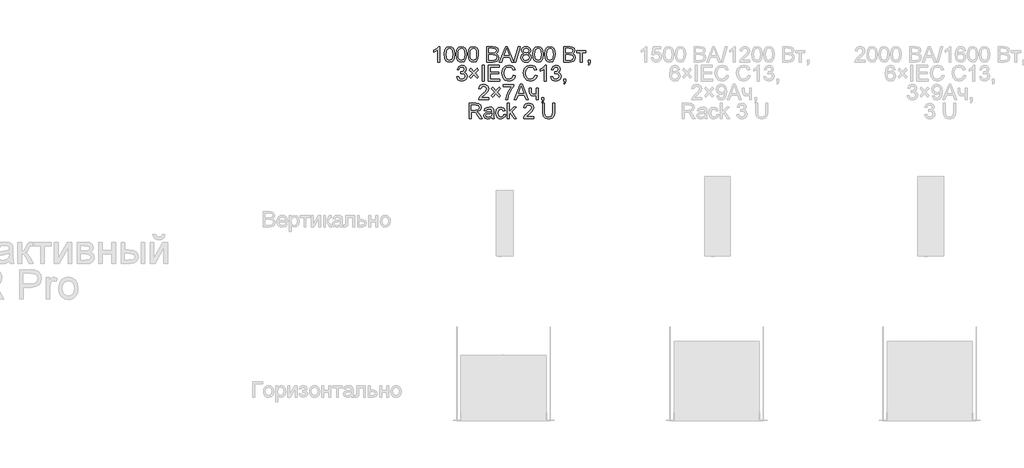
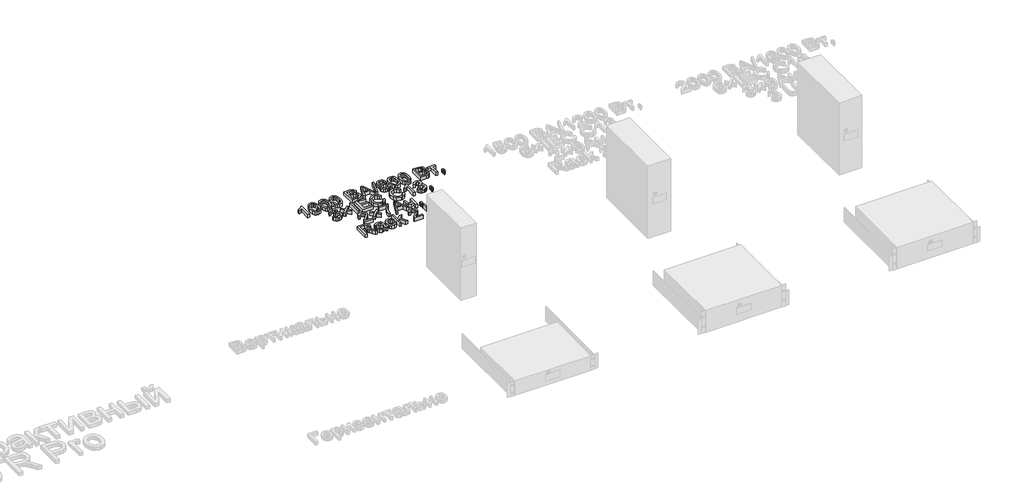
# One storey, part 71 of 74: 1 proxy.
"""IFC4 building model written with IfcOpenShell, lengths in millimetres."""

from ifc_helpers import new_model, si_unit, origin, origin_with_axes, place, context, project, spatial, polyline, outline, extrude, element, save

model = new_model("IFC4")

# Units and contexts
model_context = context("Model", 3, world=origin())
ifc_project = project(units=[si_unit("LENGTHUNIT", "METRE", prefix="MILLI")], contexts=[model_context])

# Site, building, storey
site = spatial("IfcSite", under=ifc_project)
building = spatial("IfcBuilding", under=site)
storey = spatial("IfcBuildingStorey", under=building, Name="Этаж 01", Elevation=0.0)

# Proxy
placement = place(None, origin())
element("IfcBuildingElementProxy", 1, Name="80 мм Arial", ObjectType="80 мм Arial", at=placement, inside=storey, context=model_context, shape_type="SweptSolid", body=[
    extrude(outline(polyline([(1017.7661692, 4962.3651415), (1007.7205382, 4962.3651415), (1007.7205382, 5024.9933724), (998.2046572, 5018.2145335), (987.6292761, 5013.142667), (987.6292761, 5022.6389276), (1002.3543661, 5032.0370863), (1011.2914461, 5042.7301896), (1017.7661692, 5042.7301896), (1017.7661692, 4962.3651415)])), origin_with_axes(), (0.0, 0.0, 1.0), 20.0),
    extrude(outline(polyline([(1041.6245428, 5001.9001933), (1044.577409, 5025.0228029), (1053.3477158, 5038.3548465), (1067.9943243, 5042.7301896), (1079.7273074, 5040.1403004), (1087.8305214, 5032.6747484), (1092.539411, 5020.7848024), (1094.3641057, 5001.9001933), (1091.4406701, 4978.8756855), (1082.6997939, 4965.5142114), (1067.9943243, 4961.1094377), (1057.5562858, 4963.022424), (1049.6296551, 4968.7613832), (1043.6258209, 4982.3533966), (1041.6245428, 5001.9001933)]), holes=[polyline([(1051.6701739, 5001.9198136), (1052.8473962, 4986.1180557), (1056.3790634, 4976.9725093), (1067.9943243, 4971.1550687), (1079.6095851, 4976.9921297), (1083.1412523, 4986.1425811), (1084.3184747, 5001.9198136), (1083.180493, 5017.3659524), (1079.7665481, 5026.5826226), (1074.5180983, 5031.1590746), (1067.876602, 5032.6845586), (1056.5360264, 5027.3085764), (1052.886637, 5017.5180102), (1051.6701739, 5001.9198136)])]), origin_with_axes(), (0.0, 0.0, 1.0), 20.0),
    extrude(outline(polyline([(1103.1540328, 5001.9001933), (1106.106899, 5025.0228029), (1114.8772057, 5038.3548465), (1129.5238142, 5042.7301896), (1141.2567973, 5040.1403004), (1149.3600114, 5032.6747484), (1154.0689009, 5020.7848024), (1155.8935956, 5001.9001933), (1152.97016, 4978.8756855), (1144.2292838, 4965.5142114), (1129.5238142, 4961.1094377), (1119.0857757, 4963.022424), (1111.159145, 4968.7613832), (1105.1553109, 4982.3533966), (1103.1540328, 5001.9001933)]), holes=[polyline([(1113.1996638, 5001.9198136), (1114.3768862, 4986.1180557), (1117.9085534, 4976.9725093), (1129.5238142, 4971.1550687), (1141.1390751, 4976.9921297), (1144.6707422, 4986.1425811), (1145.8479646, 5001.9198136), (1144.709983, 5017.3659524), (1141.2960381, 5026.5826226), (1136.0475883, 5031.1590746), (1129.406092, 5032.6845586), (1118.0655163, 5027.3085764), (1114.4161269, 5017.5180102), (1113.1996638, 5001.9198136)])]), origin_with_axes(), (0.0, 0.0, 1.0), 20.0),
    extrude(outline(polyline([(1164.6835228, 5001.9001933), (1167.6363889, 5025.0228029), (1176.4066957, 5038.3548465), (1191.0533042, 5042.7301896), (1202.7862873, 5040.1403004), (1210.8895014, 5032.6747484), (1215.5983909, 5020.7848024), (1217.4230856, 5001.9001933), (1214.49965, 4978.8756855), (1205.7587738, 4965.5142114), (1191.0533042, 4961.1094377), (1180.6152657, 4963.022424), (1172.688635, 4968.7613832), (1166.6848008, 4982.3533966), (1164.6835228, 5001.9001933)]), holes=[polyline([(1174.7291538, 5001.9198136), (1175.9063762, 4986.1180557), (1179.4380433, 4976.9725093), (1191.0533042, 4971.1550687), (1202.668565, 4976.9921297), (1206.2002322, 4986.1425811), (1207.3774546, 5001.9198136), (1206.2394729, 5017.3659524), (1202.825528, 5026.5826226), (1197.5770782, 5031.1590746), (1190.9355819, 5032.6845586), (1179.5950063, 5027.3085764), (1175.9456169, 5017.5180102), (1174.7291538, 5001.9198136)])]), origin_with_axes(), (0.0, 0.0, 1.0), 20.0),
    extrude(outline(polyline([(1261.3727213, 4962.3651415), (1261.3727213, 5042.7301896), (1292.0393644, 5042.7301896), (1307.05876, 5040.3659347), (1315.9271686, 5033.0965865), (1319.1350996, 5022.815511), (1316.4372983, 5013.4271625), (1308.2850333, 5006.3147772), (1318.1835115, 4998.8197947), (1321.6465074, 4986.3216171), (1319.2822524, 4975.5206017), (1313.4255711, 4967.8294154), (1304.6846949, 4963.7483778), (1291.8039199, 4962.3651415), (1261.3727213, 4962.3651415)]), holes=[polyline([(1271.4183523, 5010.0818888), (1289.7634011, 5010.0818888), (1300.4761248, 5010.9451853), (1306.9214174, 5014.663246), (1309.0894686, 5021.2066404), (1307.0685702, 5027.759845), (1301.2805601, 5031.6348687), (1288.3703546, 5032.6845586), (1271.4183523, 5032.6845586), (1271.4183523, 5010.0818888)]), polyline([(1271.4183523, 4972.4107725), (1292.019744, 4972.4107725), (1299.4754858, 4972.80318), (1305.7834357, 4974.9908516), (1309.9625752, 4979.4544865), (1311.6008764, 4986.2235152), (1309.6780798, 4994.0324237), (1303.4486114, 4998.6922623), (1291.0387254, 5000.0362578), (1271.4183523, 5000.0362578), (1271.4183523, 4972.4107725)])]), origin_with_axes(), (0.0, 0.0, 1.0), 20.0),
    extrude(outline(polyline([(1326.1003321, 4962.3651415), (1358.179642, 5042.7301896), (1366.7341247, 5042.7301896), (1398.8134347, 4962.3651415), (1388.1988129, 4962.3651415), (1378.9968579, 4987.4792191), (1345.8972885, 4987.4792191), (1336.7149539, 4962.3651415), (1326.1003321, 4962.3651415)]), holes=[polyline([(1349.5859186, 4997.5248501), (1375.3278481, 4997.5248501), (1368.0879305, 5017.2825658), (1362.4568834, 5032.6845586), (1357.4536882, 5019.0091586), (1349.5859186, 4997.5248501)])]), origin_with_axes(), (0.0, 0.0, 1.0), 20.0),
    extrude(outline(polyline([(1400.7558516, 4962.3651415), (1423.3585214, 5042.7301896), (1432.4231338, 5042.7301896), (1409.820464, 4962.3651415), (1400.7558516, 4962.3651415)])), origin_with_axes(), (0.0, 0.0, 1.0), 20.0),
    extrude(outline(polyline([(1451.8080624, 5006.6287032), (1442.6551583, 5012.8679818), (1439.6826718, 5022.5800665), (1441.3013526, 5030.4331208), (1446.1573949, 5036.9225592), (1453.7063335, 5041.278282), (1463.4037029, 5042.7301896), (1473.1599334, 5041.2439464), (1480.8069738, 5036.7852166), (1485.7513078, 5030.1927713), (1487.3994191, 5022.3053813), (1484.4661734, 5012.8385513), (1475.5683342, 5006.6287032), (1486.2516273, 4998.7511234), (1489.9108269, 4985.7526262), (1488.0959424, 4976.1484536), (1482.6512888, 4968.2120127), (1474.243959, 4962.8850814), (1463.5410455, 4961.1094377), (1452.838132, 4962.8924391), (1444.4308021, 4968.2414433), (1438.9861486, 4976.2539131), (1437.1712641, 4986.0273115), (1440.9776164, 4999.3299244), (1451.8080624, 5006.6287032)]), holes=[polyline([(1449.7283028, 5022.2857609), (1453.2894005, 5014.3983709), (1463.6587677, 5011.3375927), (1473.822121, 5014.3787506), (1477.3537881, 5021.8344923), (1473.7043987, 5029.5551091), (1463.5410455, 5032.6845586), (1453.3482617, 5029.6237804), (1449.7283028, 5022.2857609)]), polyline([(1447.2168951, 4986.3804782), (1448.894437, 4978.8168244), (1454.8295998, 4973.1563467), (1463.619527, 4971.1550687), (1475.5879545, 4975.3636387), (1479.8651959, 4986.0665522), (1475.4506119, 4996.9754796), (1463.2859806, 5001.2919617), (1451.4647058, 4997.0343408), (1447.2168951, 4986.3804782)])]), origin_with_axes(), (0.0, 0.0, 1.0), 20.0),
    extrude(outline(polyline([(1498.700754, 5001.9001933), (1501.6536202, 5025.0228029), (1510.4239269, 5038.3548465), (1525.0705354, 5042.7301896), (1536.8035185, 5040.1403004), (1544.9067326, 5032.6747484), (1549.6156222, 5020.7848024), (1551.4403168, 5001.9001933), (1548.5168813, 4978.8756855), (1539.7760051, 4965.5142114), (1525.0705354, 4961.1094377), (1514.632497, 4963.022424), (1506.7058662, 4968.7613832), (1500.7020321, 4982.3533966), (1498.700754, 5001.9001933)]), holes=[polyline([(1508.746385, 5001.9198136), (1509.9236074, 4986.1180557), (1513.4552746, 4976.9725093), (1525.0705354, 4971.1550687), (1536.6857963, 4976.9921297), (1540.2174634, 4986.1425811), (1541.3946858, 5001.9198136), (1540.2567042, 5017.3659524), (1536.8427593, 5026.5826226), (1531.5943095, 5031.1590746), (1524.9528132, 5032.6845586), (1513.6122376, 5027.3085764), (1509.9628482, 5017.5180102), (1508.746385, 5001.9198136)])]), origin_with_axes(), (0.0, 0.0, 1.0), 20.0),
    extrude(outline(polyline([(1560.230244, 5001.9001933), (1563.1831101, 5025.0228029), (1571.9534169, 5038.3548465), (1586.6000254, 5042.7301896), (1598.3330085, 5040.1403004), (1606.4362226, 5032.6747484), (1611.1451121, 5020.7848024), (1612.9698068, 5001.9001933), (1610.0463712, 4978.8756855), (1601.305495, 4965.5142114), (1586.6000254, 4961.1094377), (1576.1619869, 4963.022424), (1568.2353562, 4968.7613832), (1562.231522, 4982.3533966), (1560.230244, 5001.9001933)]), holes=[polyline([(1570.275875, 5001.9198136), (1571.4530974, 4986.1180557), (1574.9847645, 4976.9725093), (1586.6000254, 4971.1550687), (1598.2152863, 4976.9921297), (1601.7469534, 4986.1425811), (1602.9241758, 5001.9198136), (1601.7861942, 5017.3659524), (1598.3722492, 5026.5826226), (1593.1237994, 5031.1590746), (1586.4823032, 5032.6845586), (1575.1417275, 5027.3085764), (1571.4923381, 5017.5180102), (1570.275875, 5001.9198136)])]), origin_with_axes(), (0.0, 0.0, 1.0), 20.0),
    extrude(outline(polyline([(1656.9194425, 4962.3651415), (1656.9194425, 5042.7301896), (1687.5860856, 5042.7301896), (1702.6054812, 5040.3659347), (1711.4738898, 5033.0965865), (1714.6818208, 5022.815511), (1711.9840195, 5013.4271625), (1703.8317545, 5006.3147772), (1713.7302327, 4998.8197947), (1717.1932286, 4986.3216171), (1714.8289736, 4975.5206017), (1708.9722923, 4967.8294154), (1700.2314161, 4963.7483778), (1687.3506411, 4962.3651415), (1656.9194425, 4962.3651415)]), holes=[polyline([(1666.9650735, 4972.4107725), (1687.5664652, 4972.4107725), (1695.022207, 4972.80318), (1701.330157, 4974.9908516), (1705.5092964, 4979.4544865), (1707.1475976, 4986.2235152), (1705.224801, 4994.0324237), (1698.9953326, 4998.6922623), (1686.5854466, 5000.0362578), (1666.9650735, 5000.0362578), (1666.9650735, 4972.4107725)]), polyline([(1666.9650735, 5010.0818888), (1685.3101223, 5010.0818888), (1696.022846, 5010.9451853), (1702.4681386, 5014.663246), (1704.6361898, 5021.2066404), (1702.6152914, 5027.759845), (1696.8272813, 5031.6348687), (1683.9170759, 5032.6845586), (1666.9650735, 5032.6845586), (1666.9650735, 5010.0818888)])]), origin_with_axes(), (0.0, 0.0, 1.0), 20.0),
    extrude(outline(polyline([(1724.7274519, 5021.3832237), (1772.4441992, 5021.3832237), (1772.4441992, 5011.3375927), (1753.608641, 5011.3375927), (1753.608641, 4962.3651415), (1743.56301, 4962.3651415), (1743.56301, 5011.3375927), (1724.7274519, 5011.3375927), (1724.7274519, 5021.3832237)])), origin_with_axes(), (0.0, 0.0, 1.0), 20.0),
    extrude(outline(polyline([(1783.7455341, 4962.3651415), (1783.7455341, 4972.4107725), (1793.7911651, 4972.4107725), (1793.7911651, 4962.3651415), (1791.9860908, 4952.0938762), (1786.2569418, 4946.0409911), (1783.7455341, 4949.8081028), (1787.4341642, 4954.1442052), (1788.7487292, 4962.3651415), (1783.7455341, 4962.3651415)])), origin_with_axes(), (0.0, 0.0, 1.0), 20.0),
    extrude(outline(polyline([(1105.6654406, 4886.1322532), (1115.7110716, 4887.387957), (1121.253827, 4876.8125759), (1131.6231941, 4873.5752144), (1143.8270662, 4878.0290391), (1148.3593724, 4889.0556887), (1143.8663069, 4899.4446763), (1132.4472498, 4903.5551445), (1125.4035359, 4902.4564036), (1126.5218971, 4912.5020346), (1128.1307677, 4912.3843123), (1139.5302045, 4915.2685072), (1144.5922607, 4924.1369158), (1140.923251, 4931.9948752), (1131.4662312, 4935.1047044), (1121.8914891, 4931.9654447), (1116.9667754, 4922.5476656), (1106.9211444, 4923.8033695), (1115.1420808, 4939.558529), (1131.1130644, 4945.1503354), (1143.2286448, 4942.393673), (1151.704646, 4934.8594497), (1154.6378918, 4924.725527), (1151.8517988, 4915.4647109), (1143.6112421, 4908.8134044), (1154.5594103, 4901.9462739), (1158.4050034, 4888.8791054), (1156.4822068, 4879.0885392), (1150.7138171, 4870.9068437), (1142.0072766, 4865.3738984), (1131.2700274, 4863.5295834), (1121.5579427, 4865.1041183), (1113.6509324, 4869.8277231), (1108.1523228, 4877.0529255), (1105.6654406, 4886.1322532)])), origin_with_axes(), (0.0, 0.0, 1.0), 20.0),
    extrude(outline(polyline([(1171.0405236, 4887.387957), (1186.991887, 4904.3399594), (1171.0405236, 4921.2919617), (1177.2405615, 4930.0818888), (1194.2710454, 4912.0703864), (1211.2230477, 4930.0818888), (1217.4230856, 4921.2919617), (1201.4717223, 4904.3399594), (1217.4230856, 4887.387957), (1211.2230477, 4878.5980299), (1194.2710454, 4896.6095324), (1177.2405615, 4878.5980299), (1171.0405236, 4887.387957)])), origin_with_axes(), (0.0, 0.0, 1.0), 20.0),
    extrude(outline(polyline([(1237.5143476, 4864.7852873), (1237.5143476, 4945.1503354), (1247.5599786, 4945.1503354), (1247.5599786, 4864.7852873), (1237.5143476, 4864.7852873)])), origin_with_axes(), (0.0, 0.0, 1.0), 20.0),
    extrude(outline(polyline([(1267.6512407, 4864.7852873), (1267.6512407, 4945.1503354), (1325.413619, 4945.1503354), (1325.413619, 4935.1047044), (1277.6968717, 4935.1047044), (1277.6968717, 4911.2463307), (1322.9022113, 4911.2463307), (1322.9022113, 4901.2006997), (1277.6968717, 4901.2006997), (1277.6968717, 4874.8309183), (1326.6693229, 4874.8309183), (1326.6693229, 4864.7852873), (1267.6512407, 4864.7852873)])), origin_with_axes(), (0.0, 0.0, 1.0), 20.0),
    extrude(outline(polyline([(1398.2444439, 4893.3525505), (1408.2900749, 4890.7626612), (1403.6547617, 4879.0566561), (1396.3805084, 4870.504626), (1386.8253867, 4865.273344), (1375.3474685, 4863.5295834), (1354.441961, 4868.8074637), (1342.1792278, 4884.0917344), (1337.9706578, 4905.5760429), (1342.7285982, 4927.4135181), (1356.2568455, 4941.5696173), (1375.5632926, 4946.4060392), (1386.5776795, 4944.8413145), (1395.6839852, 4940.1471402), (1402.5977141, 4932.612917), (1407.034371, 4922.5280452), (1396.98874, 4920.1343597), (1388.7481833, 4932.4853846), (1375.1708851, 4936.3604082), (1359.4549663, 4932.0635465), (1350.5767475, 4920.5267672), (1348.0162888, 4905.5956633), (1351.0476364, 4888.2904942), (1360.4850359, 4877.234414), (1374.3468295, 4873.5752144), (1389.7193918, 4878.5587892), (1398.2444439, 4893.3525505)])), origin_with_axes(), (0.0, 0.0, 1.0), 20.0),
    extrude(outline(polyline([(1510.0020889, 4893.3525505), (1520.0477199, 4890.7626612), (1515.4124068, 4879.0566561), (1508.1381535, 4870.504626), (1498.5830318, 4865.273344), (1487.1051135, 4863.5295834), (1466.199606, 4868.8074637), (1453.9368728, 4884.0917344), (1449.7283028, 4905.5760429), (1454.4862433, 4927.4135181), (1468.0144905, 4941.5696173), (1487.3209376, 4946.4060392), (1498.3353246, 4944.8413145), (1507.4416302, 4940.1471402), (1514.3553592, 4932.612917), (1518.792016, 4922.5280452), (1508.746385, 4920.1343597), (1500.5058283, 4932.4853846), (1486.9285302, 4936.3604082), (1471.2126113, 4932.0635465), (1462.3343925, 4920.5267672), (1459.7739338, 4905.5956633), (1462.8052815, 4888.2904942), (1472.2426809, 4877.234414), (1486.1044745, 4873.5752144), (1501.4770368, 4878.5587892), (1510.0020889, 4893.3525505)])), origin_with_axes(), (0.0, 0.0, 1.0), 20.0),
    extrude(outline(polyline([(1567.7644672, 4864.7852873), (1557.7188362, 4864.7852873), (1557.7188362, 4927.4135181), (1548.2029553, 4920.6346792), (1537.6275742, 4915.5628128), (1537.6275742, 4925.0590733), (1552.3526642, 4934.457232), (1561.2897441, 4945.1503354), (1567.7644672, 4945.1503354), (1567.7644672, 4864.7852873)])), origin_with_axes(), (0.0, 0.0, 1.0), 20.0),
    extrude(outline(polyline([(1591.6228409, 4886.1322532), (1601.6684719, 4887.387957), (1607.2112273, 4876.8125759), (1617.5805945, 4873.5752144), (1629.7844665, 4878.0290391), (1634.3167727, 4889.0556887), (1629.8237073, 4899.4446763), (1618.4046502, 4903.5551445), (1611.3609362, 4902.4564036), (1612.4792975, 4912.5020346), (1614.0881681, 4912.3843123), (1625.4876048, 4915.2685072), (1630.5496611, 4924.1369158), (1626.8806513, 4931.9948752), (1617.4236315, 4935.1047044), (1607.8488894, 4931.9654447), (1602.9241758, 4922.5476656), (1592.8785448, 4923.8033695), (1601.0994811, 4939.558529), (1617.0704648, 4945.1503354), (1629.1860452, 4942.393673), (1637.6620463, 4934.8594497), (1640.5952921, 4924.725527), (1637.8091991, 4915.4647109), (1629.5686424, 4908.8134044), (1640.5168106, 4901.9462739), (1644.3624037, 4888.8791054), (1642.4396072, 4879.0885392), (1636.6712175, 4870.9068437), (1627.9646769, 4865.3738984), (1617.2274278, 4863.5295834), (1607.5153431, 4865.1041183), (1599.6083327, 4869.8277231), (1594.1097232, 4877.0529255), (1591.6228409, 4886.1322532)])), origin_with_axes(), (0.0, 0.0, 1.0), 20.0),
    extrude(outline(polyline([(1658.1751464, 4864.7852873), (1658.1751464, 4874.8309183), (1668.2207774, 4874.8309183), (1668.2207774, 4864.7852873), (1666.4157031, 4854.5140219), (1660.6865541, 4848.4611369), (1658.1751464, 4852.2282485), (1661.8637765, 4856.5643509), (1663.1783415, 4864.7852873), (1658.1751464, 4864.7852873)])), origin_with_axes(), (0.0, 0.0, 1.0), 20.0),
    extrude(outline(polyline([(1270.7905004, 4777.251064), (1270.7905004, 4767.205433), (1218.0509375, 4767.205433), (1219.1300581, 4774.1314247), (1225.2319941, 4784.7950974), (1237.8086532, 4796.4397889), (1255.153063, 4813.1759671), (1259.4891655, 4824.5557835), (1255.3983177, 4833.7675486), (1244.7150245, 4837.5248501), (1233.5804628, 4833.8558403), (1229.3522724, 4823.7121074), (1219.3066414, 4824.9678113), (1221.7420202, 4834.6848011), (1227.0076378, 4841.782471), (1234.8288091, 4846.1234786), (1244.9308487, 4847.5704811), (1255.1064646, 4845.9616105), (1262.9129206, 4841.1349987), (1267.8793275, 4833.9245116), (1269.5347965, 4825.164015), (1267.7493425, 4815.6383239), (1261.8141797, 4805.7888966), (1247.422636, 4792.0252049), (1235.8662363, 4782.3621712), (1231.3339301, 4777.251064), (1270.7905004, 4777.251064)])), origin_with_axes(), (0.0, 0.0, 1.0), 20.0),
    extrude(outline(polyline([(1284.6817245, 4789.8081028), (1300.6330878, 4806.7601051), (1284.6817245, 4823.7121074), (1290.8817624, 4832.5020346), (1307.9122462, 4814.4905321), (1324.8642486, 4832.5020346), (1331.0642865, 4823.7121074), (1315.1129231, 4806.7601051), (1331.0642865, 4789.8081028), (1324.8642486, 4781.0181756), (1307.9122462, 4799.0296781), (1290.8817624, 4781.0181756), (1284.6817245, 4789.8081028)])), origin_with_axes(), (0.0, 0.0, 1.0), 20.0),
    extrude(outline(polyline([(1346.132733, 4836.2691462), (1346.132733, 4846.3147772), (1398.8722958, 4846.3147772), (1398.8722958, 4838.1919428), (1383.9117613, 4816.5801018), (1372.4632736, 4789.0429082), (1368.7354028, 4767.205433), (1358.6897717, 4767.205433), (1362.6825177, 4789.8669639), (1373.640496, 4815.4813609), (1388.8266648, 4836.2691462), (1346.132733, 4836.2691462)])), origin_with_axes(), (0.0, 0.0, 1.0), 20.0),
    extrude(outline(polyline([(1402.0704166, 4767.205433), (1434.1497266, 4847.5704811), (1442.7042093, 4847.5704811), (1474.7835192, 4767.205433), (1464.1688974, 4767.205433), (1454.9669424, 4792.3195105), (1421.8673731, 4792.3195105), (1412.6850385, 4767.205433), (1402.0704166, 4767.205433)]), holes=[polyline([(1425.5560032, 4802.3651415), (1451.2979327, 4802.3651415), (1444.058015, 4822.1228572), (1438.4269679, 4837.5248501), (1433.4237728, 4823.84945), (1425.5560032, 4802.3651415)])]), origin_with_axes(), (0.0, 0.0, 1.0), 20.0),
    extrude(outline(polyline([(1480.4930478, 4826.2235152), (1490.5386788, 4826.2235152), (1490.5386788, 4814.9025599), (1491.3529243, 4804.2879381), (1495.2671887, 4798.5391688), (1503.0368565, 4796.0866221), (1516.9084602, 4799.12778), (1516.9084602, 4826.2235152), (1526.9540912, 4826.2235152), (1526.9540912, 4767.205433), (1516.9084602, 4767.205433), (1516.9084602, 4789.4941768), (1500.3488654, 4786.0409911), (1488.9592388, 4789.6413296), (1482.2588814, 4798.4606873), (1480.4930478, 4809.9386055), (1480.4930478, 4826.2235152)])), origin_with_axes(), (0.0, 0.0, 1.0), 20.0),
    extrude(outline(polyline([(1544.5339455, 4767.205433), (1544.5339455, 4777.251064), (1554.5795765, 4777.251064), (1554.5795765, 4767.205433), (1552.7745022, 4756.9341677), (1547.0453533, 4750.8812826), (1544.5339455, 4754.6483942), (1548.2225757, 4758.9844967), (1549.5371407, 4767.205433), (1544.5339455, 4767.205433)])), origin_with_axes(), (0.0, 0.0, 1.0), 20.0),
    extrude(outline(polyline([(1169.0784863, 4669.6255787), (1169.0784863, 4749.9906268), (1203.7084448, 4749.9906268), (1219.7873406, 4747.8225756), (1228.5772677, 4740.1510097), (1231.8636802, 4727.9961886), (1226.4190267, 4713.5163533), (1209.5945567, 4706.0409911), (1215.3040853, 4701.7441294), (1223.4465401, 4691.4041928), (1236.8472549, 4669.6255787), (1225.173133, 4669.6255787), (1214.7154741, 4686.2832754), (1207.1616305, 4697.3099251), (1201.8543196, 4702.5191342), (1197.0767587, 4704.4321205), (1191.2495079, 4704.7852873), (1179.1241174, 4704.7852873), (1179.1241174, 4669.6255787), (1169.0784863, 4669.6255787)]), holes=[polyline([(1179.1241174, 4714.8309183), (1201.6090649, 4714.8309183), (1213.077173, 4716.2533953), (1219.5911368, 4720.8053219), (1221.8180492, 4727.6234015), (1217.5702384, 4736.4721898), (1204.140093, 4739.9449958), (1179.1241174, 4739.9449958), (1179.1241174, 4714.8309183)])]), origin_with_axes(), (0.0, 0.0, 1.0), 20.0),
    extrude(outline(polyline([(1285.8589469, 4677.159802), (1276.1174317, 4670.3515325), (1265.355657, 4668.3698748), (1250.7679096, 4673.1376255), (1245.6764228, 4685.3218772), (1247.5992194, 4693.2681283), (1252.6514655, 4699.0365179), (1259.6853692, 4702.3327406), (1268.3771945, 4703.8435093), (1285.8000858, 4707.296695), (1285.8589469, 4709.5334175), (1283.0924743, 4716.9499186), (1271.9873431, 4719.8537338), (1261.8239899, 4717.921127), (1256.9777577, 4711.0638066), (1246.9321267, 4712.3195105), (1251.2780393, 4722.1296971), (1260.0287257, 4727.8784664), (1273.2822877, 4729.8993648), (1285.4567292, 4728.1139108), (1292.33367, 4723.6306556), (1295.4140686, 4716.8125759), (1295.9045779, 4708.0226488), (1295.9045779, 4695.5244712), (1296.4147076, 4678.0721493), (1298.4159857, 4669.6255787), (1288.3703546, 4669.6255787), (1285.8589469, 4677.159802)]), holes=[polyline([(1285.8589469, 4697.251064), (1269.6525187, 4694.1706654), (1261.0097444, 4692.5421745), (1257.09548, 4689.8934241), (1255.7220538, 4686.0282106), (1258.7141607, 4680.5933672), (1267.4942777, 4678.4155058), (1277.6576309, 4680.8190015), (1284.2108356, 4686.6364422), (1285.8000858, 4694.4061099), (1285.8589469, 4697.251064)])]), origin_with_axes(), (0.0, 0.0, 1.0), 20.0),
    extrude(outline(polyline([(1347.3884369, 4690.9725446), (1357.4340679, 4689.7168407), (1354.6332596, 4680.7822133), (1349.3700945, 4674.0303525), (1333.4383516, 4668.3698748), (1322.7526059, 4670.3441749), (1314.3967795, 4676.267075), (1309.0036295, 4685.8786052), (1307.2059128, 4698.9187957), (1310.2765012, 4715.605923), (1319.6354191, 4726.3284569), (1333.301009, 4729.8993648), (1348.5754694, 4724.9942715), (1356.178364, 4711.0638066), (1346.132733, 4709.8081028), (1341.4728944, 4717.3325158), (1333.3794905, 4719.8537338), (1321.7347991, 4714.8897794), (1317.2515438, 4699.1934809), (1321.6366972, 4683.3500297), (1333.1048053, 4678.4155058), (1342.5716353, 4681.4959044), (1347.3884369, 4690.9725446)])), origin_with_axes(), (0.0, 0.0, 1.0), 20.0),
    extrude(outline(polyline([(1366.223995, 4669.6255787), (1366.223995, 4749.9906268), (1376.269626, 4749.9906268), (1376.269626, 4706.8061857), (1398.7938143, 4728.6436609), (1412.6850385, 4728.6436609), (1389.8861649, 4706.5315005), (1413.9407423, 4669.6255787), (1402.2077592, 4669.6255787), (1382.685488, 4699.5466476), (1376.269626, 4693.3269894), (1376.269626, 4669.6255787), (1366.223995, 4669.6255787)])), origin_with_axes(), (0.0, 0.0, 1.0), 20.0),
    extrude(outline(polyline([(1503.0957176, 4679.6712097), (1503.0957176, 4669.6255787), (1450.3561548, 4669.6255787), (1451.4352753, 4676.5515704), (1457.5372113, 4687.2152432), (1470.1138704, 4698.8599346), (1487.4582802, 4715.5961128), (1491.7943827, 4726.9759292), (1487.7035349, 4736.1876944), (1477.0202418, 4739.9449958), (1465.88568, 4736.275986), (1461.6574897, 4726.1322532), (1451.6118586, 4727.387957), (1454.0472374, 4737.1049468), (1459.3128551, 4744.2026168), (1467.1340263, 4748.5436243), (1477.2360659, 4749.9906268), (1487.4116819, 4748.3817562), (1495.2181378, 4743.5551445), (1500.1845447, 4736.3446573), (1501.8400137, 4727.5841608), (1500.0545598, 4718.0584696), (1494.1193969, 4708.2090424), (1479.7278533, 4694.4453506), (1468.1714535, 4684.7823169), (1463.6391473, 4679.6712097), (1503.0957176, 4679.6712097)])), origin_with_axes(), (0.0, 0.0, 1.0), 20.0),
    extrude(outline(polyline([(1601.04062, 4749.9906268), (1611.086251, 4749.9906268), (1611.086251, 4703.6276852), (1608.3590191, 4684.4095298), (1598.5292122, 4672.8335097), (1579.8898578, 4668.3698748), (1561.5349988, 4672.2547087), (1551.3520252, 4683.5069927), (1548.3010572, 4703.6276852), (1548.3010572, 4749.9906268), (1558.3466882, 4749.9906268), (1558.3466882, 4703.980852), (1560.3283459, 4688.6671508), (1567.1366153, 4681.0838766), (1578.9480799, 4678.4155058), (1589.1653892, 4679.7349759), (1595.9589434, 4683.6933862), (1599.7702008, 4691.4041928), (1601.04062, 4703.980852), (1601.04062, 4749.9906268)])), origin_with_axes(), (0.0, 0.0, 1.0), 20.0),
])

save(model, "model.ifc")
